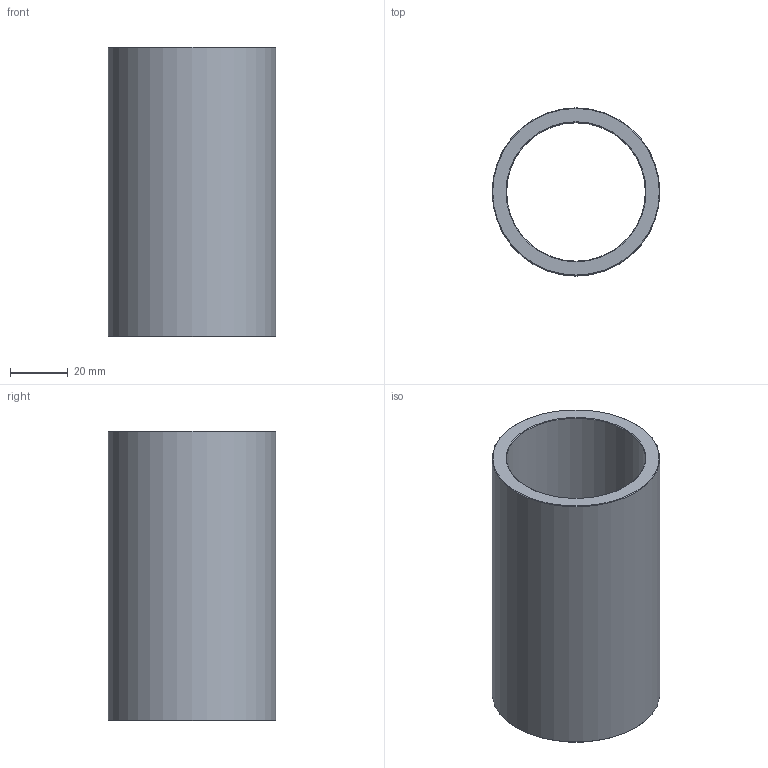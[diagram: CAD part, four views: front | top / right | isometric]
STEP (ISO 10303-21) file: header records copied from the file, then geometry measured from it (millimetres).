
FILE_DESCRIPTION(('STEP AP203'),'1');
FILE_NAME('C:/Users/Rodrigo/Desktop/GA5.048.100-1.step','2016-11-07T20:08:37',(' '),(' '),'Spatial InterOp 3D',' ',' ');
FILE_SCHEMA(('CONFIG_CONTROL_DESIGN'));
Length unit declared in the file: millimetre
Products named in the file (1): 1
Bounding box: 58 x 58 x 100 mm (x, y, z)
Volume: 83238.9 mm3; surface area: 34887.9 mm2
Topology: 1 solids, 1 shells, 8 faces, 14 edges, 8 vertices
Faces by surface type: cone 4, cylinder 2, plane 2
Full cylindrical faces by diameter (mm): 48 x1, 58 x1
Entity records: 212 total; most frequent: DIRECTION 34, CARTESIAN_POINT 25, AXIS2_PLACEMENT_3D 17, EDGE_LOOP 16, ORIENTED_EDGE 16, FACE_OUTER_BOUND 10, ADVANCED_FACE 8, EDGE_CURVE 8
